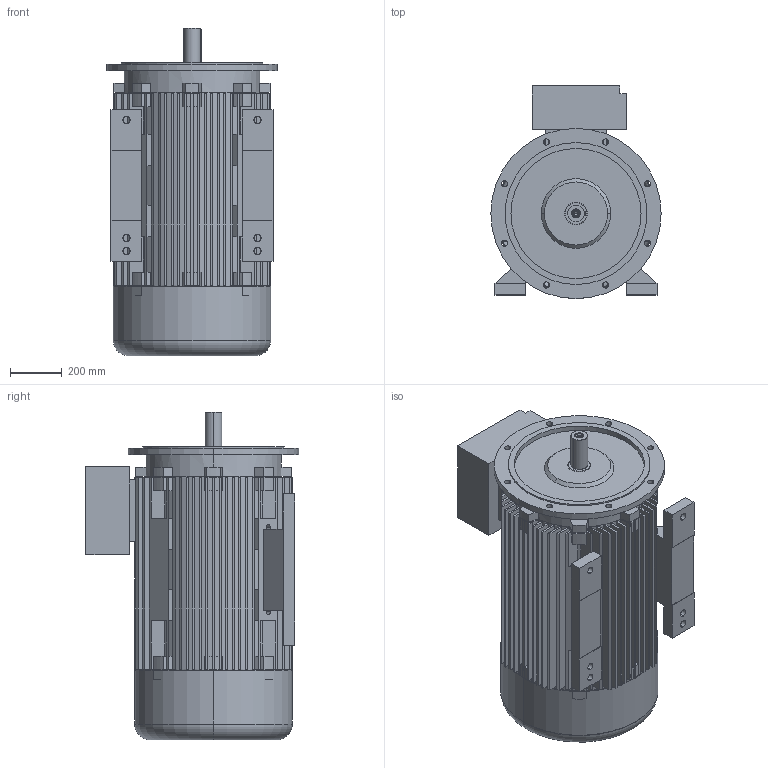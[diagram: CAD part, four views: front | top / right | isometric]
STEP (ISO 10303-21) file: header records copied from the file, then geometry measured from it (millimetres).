
FILE_DESCRIPTION (( 'STEP AP203' ), '1' );
FILE_NAME ('20.17515_C 7AT 315L -2 B35 Exde STANDK.STEP', '2018-05-21T09:07:07', ( '' ), ( '' ), 'SwSTEP 2.0', 'SolidWorks 2017', '' );
FILE_SCHEMA (( 'CONFIG_CONTROL_DESIGN' ));
Length unit declared in the file: millimetre
Products named in the file (1): 20.17515_C 7AT 315L -2 B35 Exde STANDK
Bounding box: 660 x 827 x 1270 mm (x, y, z)
Volume: 111489370 mm3; surface area: 11719069.4 mm2
Topology: 8 solids, 8 shells, 855 faces, 2298 edges, 1523 vertices
Faces by surface type: plane 681, cylinder 143, cone 18, bspline 9, torus 4
Entity records: 26948 total; most frequent: CARTESIAN_POINT 4984, ORIENTED_EDGE 4592, DIRECTION 4476, EDGE_CURVE 2296, LINE 1726, VECTOR 1726, VERTEX_POINT 1523, AXIS2_PLACEMENT_3D 1375
